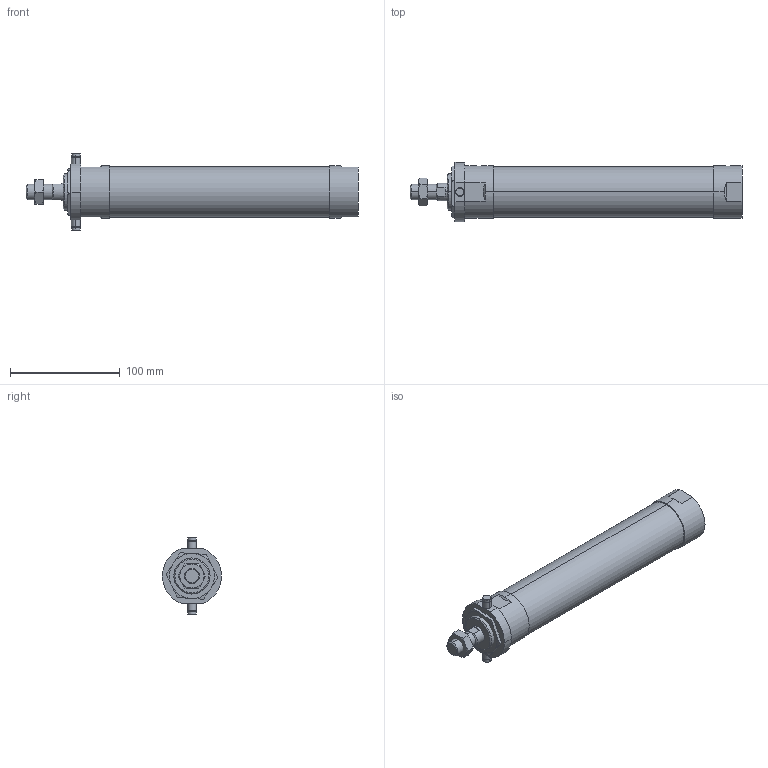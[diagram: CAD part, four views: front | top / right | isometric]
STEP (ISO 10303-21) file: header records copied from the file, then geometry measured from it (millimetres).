
FILE_DESCRIPTION (( 'STEP AP203' ), '1' );
FILE_NAME ('JGND2-40-150-T.STEP', '2016-08-04T03:13:26', ( '' ), ( '' ), 'SwSTEP 2.0', 'SolidWorks 2014', '' );
FILE_SCHEMA (( 'CONFIG_CONTROL_DESIGN' ));
Length unit declared in the file: millimetre
Products named in the file (5): JGND2-40-150-T; J#2-40-150(P); J#2-40-T
Assembly tree (4 placements, depth 2):
  JGND2-40-150-T
    J#2-40-150(P)
    (unnamed)
    (unnamed)
    J#2-40-T
Bounding box: 303 x 53.91 x 70 mm (x, y, z)
Volume: 461419.1 mm3; surface area: 54351.7 mm2
Topology: 4 solids, 4 shells, 116 faces, 269 edges, 165 vertices
Faces by surface type: plane 38, cylinder 33, torus 24, cone 21
Entity records: 4135 total; most frequent: CARTESIAN_POINT 1032, DIRECTION 550, ORIENTED_EDGE 530, EDGE_CURVE 265, AXIS2_PLACEMENT_3D 225, VERTEX_POINT 165, EDGE_LOOP 130, FACE_OUTER_BOUND 116
